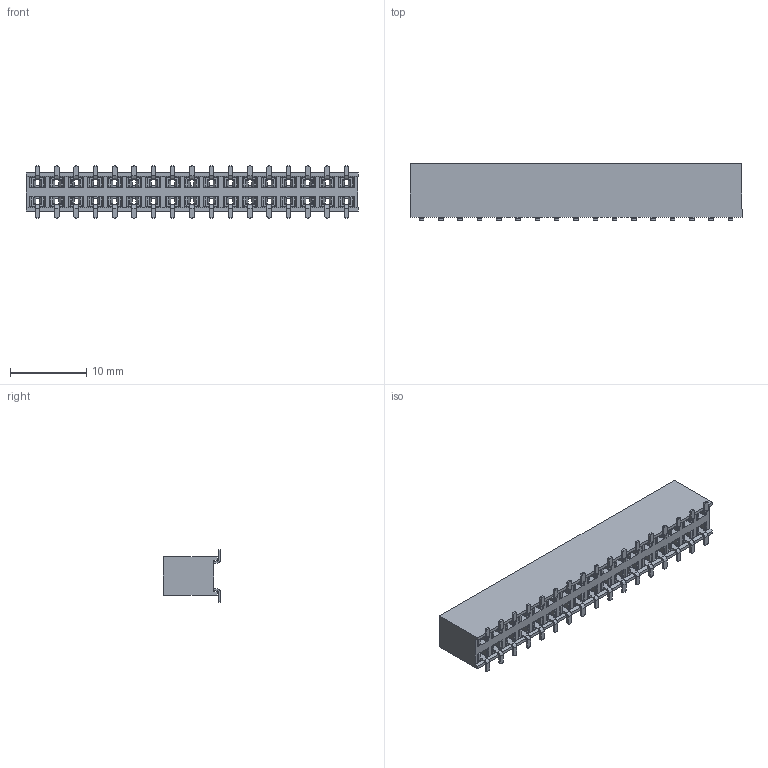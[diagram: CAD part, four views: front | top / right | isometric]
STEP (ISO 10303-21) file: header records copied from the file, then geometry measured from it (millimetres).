
FILE_DESCRIPTION (( 'STEP AP203' ), '1' );
FILE_NAME ('_ _ _C172KFMS-RC.STEP', '2016-08-04T06:17:40', ( 'LUANN HERRING' ), ( 'SULLINS' ), 'SwSTEP 2.0', 'SolidWorks 2015', '' );
FILE_SCHEMA (( 'CONFIG_CONTROL_DESIGN' ));
Length unit declared in the file: inch
Products named in the file (2): _ _ _C172KFMS-RC
Bounding box: 43.68 x 7.5 x 6.85 mm (x, y, z)
Volume: 1129.2 mm3; surface area: 3739.8 mm2
Topology: 35 solids, 35 shells, 3478 faces, 9850 edges, 6476 vertices
Faces by surface type: plane 2050, bspline 1428
Entity records: 137091 total; most frequent: CARTESIAN_POINT 59994, ORIENTED_EDGE 19700, EDGE_CURVE 9850, DIRECTION 9466, VERTEX_POINT 6476, VECTOR 5362, LINE 5362, B_SPLINE_CURVE_WITH_KNOTS 4488
